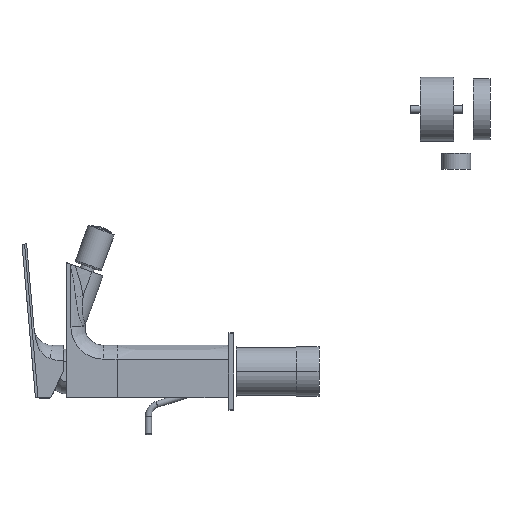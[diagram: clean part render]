
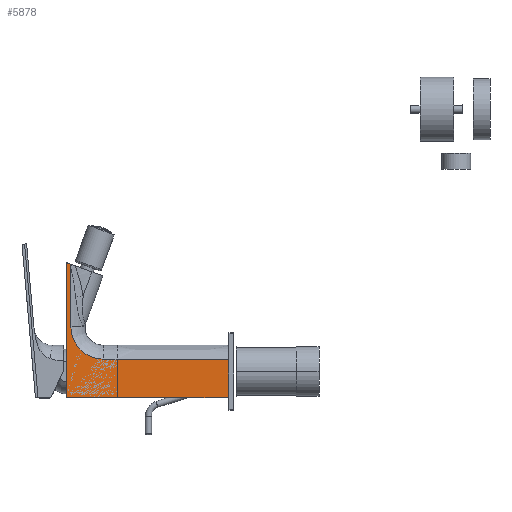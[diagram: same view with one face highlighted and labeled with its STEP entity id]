
A CAD part, left-side view. The second image highlights one B-rep face of the part: STEP entity #5878.
In plain terms, the highlighted planar face has unit normal (-1, 0, 0).
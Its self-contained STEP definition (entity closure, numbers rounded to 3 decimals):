
#72=DIRECTION('',(0.,0.,1.));
#73=VECTOR('',#72,37.728);
#74=CARTESIAN_POINT('',(-17.,0.,29.));
#75=LINE('',#74,#73);
#76=CARTESIAN_POINT('',(-17.,0.,66.728));
#88=DIRECTION('',(0.,-1.,0.));
#89=VECTOR('',#88,9.);
#90=CARTESIAN_POINT('',(-17.,-21.,8.));
#91=LINE('',#90,#89);
#92=DIRECTION('',(0.,1.,0.));
#93=VECTOR('',#92,105.);
#94=CARTESIAN_POINT('',(-17.,-102.,-17.));
#95=LINE('',#94,#93);
#96=DIRECTION('',(0.,0.,1.));
#97=VECTOR('',#96,87.64);
#98=CARTESIAN_POINT('',(-17.,3.,-17.));
#99=LINE('',#98,#97);
#100=CARTESIAN_POINT('',(-17.,-21.,29.));
#101=DIRECTION('',(-1.,0.,0.));
#102=DIRECTION('',(0.,1.,0.));
#103=AXIS2_PLACEMENT_3D('',#100,#101,#102);
#166=CARTESIAN_POINT('',(-17.,-102.,8.));
#190=DIRECTION('',(0.,0.,1.));
#191=VECTOR('',#190,25.);
#192=CARTESIAN_POINT('',(-17.,-102.,-17.));
#193=LINE('',#192,#191);
#194=DIRECTION('',(0.,1.,0.));
#195=VECTOR('',#194,72.);
#196=CARTESIAN_POINT('',(-17.,-102.,8.));
#197=LINE('',#196,#195);
#263=DIRECTION('',(0.,0.94,0.342));
#264=VECTOR('',#263,3.319);
#265=CARTESIAN_POINT('',(-17.,-0.119,69.504));
#266=LINE('',#265,#264);
#473=CARTESIAN_POINT('',(-17.,0.,
66.728));
#474=CARTESIAN_POINT('',(-17.,0.,67.233));
#475=CARTESIAN_POINT('',(-17.,-0.018,
68.2));
#476=CARTESIAN_POINT('',(-17.,-0.077,69.084));
#477=CARTESIAN_POINT('',(-17.,-0.119,69.504));
#4951=CARTESIAN_POINT('',(-17.,0.,29.));
#4952=CARTESIAN_POINT('',(-17.,-21.,8.));
#4953=VERTEX_POINT('',#4951);
#4954=VERTEX_POINT('',#4952);
#5304=CARTESIAN_POINT('',(-17.,3.,-17.));
#5305=CARTESIAN_POINT('',(-17.,3.,70.64));
#5306=VERTEX_POINT('',#5304);
#5307=VERTEX_POINT('',#5305);
#5334=VERTEX_POINT('',#76);
#5335=VERTEX_POINT('',#477);
#5347=CARTESIAN_POINT('',(-17.,-30.,8.));
#5348=VERTEX_POINT('',#5347);
#5353=VERTEX_POINT('',#166);
#5358=CARTESIAN_POINT('',(-17.,-102.,-17.));
#5359=VERTEX_POINT('',#5358);
#5855=CARTESIAN_POINT('',(-17.,3.,33.));
#5856=DIRECTION('',(-1.,0.,0.));
#5857=DIRECTION('',(0.,-1.,0.));
#5858=AXIS2_PLACEMENT_3D('',#5855,#5856,#5857);
#5859=PLANE('',#5858);
#5861=ORIENTED_EDGE('',*,*,#5860,.T.);
#5863=ORIENTED_EDGE('',*,*,#5862,.F.);
#5865=ORIENTED_EDGE('',*,*,#5864,.F.);
#5867=ORIENTED_EDGE('',*,*,#5866,.T.);
#5869=ORIENTED_EDGE('',*,*,#5868,.T.);
#5871=ORIENTED_EDGE('',*,*,#5870,.F.);
#5873=ORIENTED_EDGE('',*,*,#5872,.F.);
#5874=ORIENTED_EDGE('',*,*,#5848,.F.);
#5875=ORIENTED_EDGE('',*,*,#5602,.T.);
#5876=EDGE_LOOP('',(#5861,#5863,#5865,#5867,#5869,#5871,#5873,#5874,#5875));
#5877=FACE_OUTER_BOUND('',#5876,.F.);
#5878=ADVANCED_FACE('',(#5877),#5859,.T.);
#104=CIRCLE('',#103,21.);
#478=B_SPLINE_CURVE_WITH_KNOTS('',3,(#473,#474,#475,#476,#477),.UNSPECIFIED.,
.F.,.F.,(4,1,4),(0.,0.5,1.),.UNSPECIFIED.);
#5602=EDGE_CURVE('',#4953,#4954,#104,.T.);
#5848=EDGE_CURVE('',#4953,#5334,#75,.T.);
#5860=EDGE_CURVE('',#4954,#5348,#91,.T.);
#5862=EDGE_CURVE('',#5353,#5348,#197,.T.);
#5864=EDGE_CURVE('',#5359,#5353,#193,.T.);
#5866=EDGE_CURVE('',#5359,#5306,#95,.T.);
#5868=EDGE_CURVE('',#5306,#5307,#99,.T.);
#5870=EDGE_CURVE('',#5335,#5307,#266,.T.);
#5872=EDGE_CURVE('',#5334,#5335,#478,.T.);
